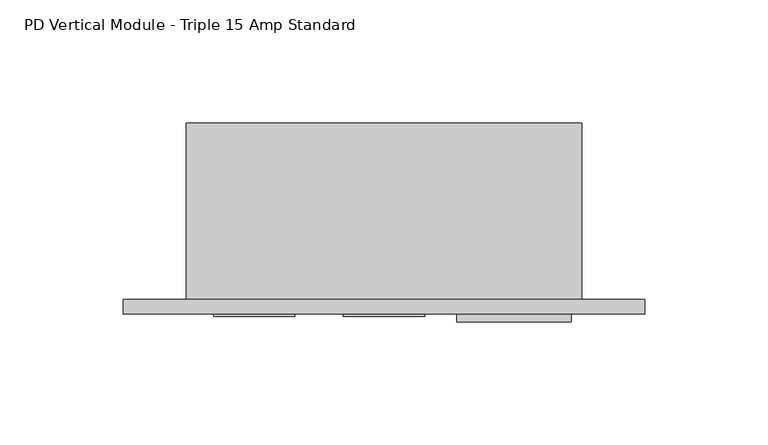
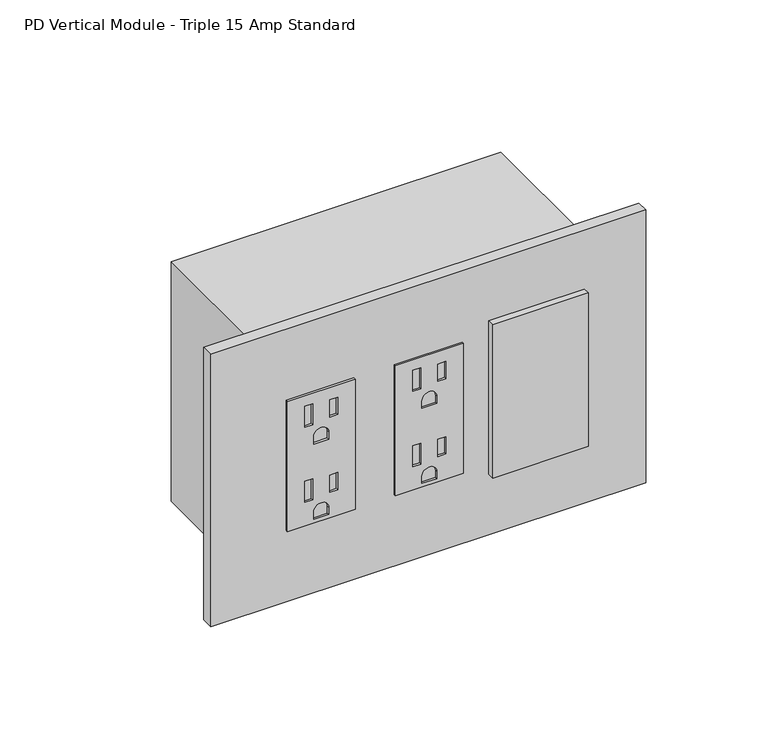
"""IFC4 building model written with IfcOpenShell, lengths in millimetres: proxy geometry, Electrical-Teknion-EPDMT_Vertical_Power_Data_Triple-R2019 : PD Vertical Module - Triple 15 Amp Standard."""

from ifc_helpers import new_model, si_unit, point, frame, frame_2d, origin, place, context, project, spatial, polyline, circle_curve, trimmed, segment, composite_curve, outline, extrude, source, transform, mapped, element, save


def pd_vertical_module_triple_15_amp_standard_c933c7ee(model_context):
    return source(origin(), model_context, "Body", "SweptSolid", [
        extrude(outline(polyline([(414.4772, 96.7613), (414.4772, 63.7667), (347.5228, 63.7667), (347.5228, 96.7613), (414.4772, 96.7613)]), holes=[polyline([(409.0924, 76.1111), (398.272, 76.1111), (398.272, 72.2757), (409.0924, 72.2757), (409.0924, 76.1111)]), polyline([(408.1145, 88.2777), (399.2499, 88.2777), (399.2499, 84.4423), (408.1145, 84.4423), (408.1145, 88.2777)]), composite_curve([segment(polyline([(388.0866, 83.8962), (388.0866, 76.6318), (391.7188, 76.6318)]), True, "CONTINUOUS"), segment(trimmed(circle_curve(frame_2d((391.7188, 80.264)), 3.6322), [point((391.7188, 76.6318))], [point((391.7188, 83.8962))], True, "CARTESIAN"), True, "CONTINUOUS"), segment(polyline([(391.7188, 83.8962), (388.0866, 83.8962)]), True, "CONTINUOUS")], self_intersect=False), polyline([(370.3574, 76.1111), (359.537, 76.1111), (359.537, 72.2757), (370.3574, 72.2757), (370.3574, 76.1111)]), polyline([(369.3795, 88.2777), (360.5149, 88.2777), (360.5149, 84.4423), (369.3795, 84.4423), (369.3795, 88.2777)]), composite_curve([segment(polyline([(349.3516, 83.8962), (349.3516, 76.6318), (352.9838, 76.6318)]), True, "CONTINUOUS"), segment(trimmed(circle_curve(frame_2d((352.9838, 80.264)), 3.6322), [point((352.9838, 76.6318))], [point((352.9838, 83.8962))], True, "CARTESIAN"), True, "CONTINUOUS"), segment(polyline([(352.9838, 83.8962), (349.3516, 83.8962)]), True, "CONTINUOUS")], self_intersect=False)]), frame((0.0, -6.9294746, 0.0), z_axis=(0.0, 1.0, 0.0), x_axis=(0.0, 0.0, 1.0)), (0.0, 0.0, 1.0), 1.0366746),
        extrude(outline(polyline([(414.4772, 44.0944), (414.4772, 11.0998), (347.5228, 11.0998), (347.5228, 44.0944), (414.4772, 44.0944)]), holes=[polyline([(409.0924, 23.4442), (398.272, 23.4442), (398.272, 19.6088), (409.0924, 19.6088), (409.0924, 23.4442)]), polyline([(408.1145, 35.6108), (399.2499, 35.6108), (399.2499, 31.7754), (408.1145, 31.7754), (408.1145, 35.6108)]), composite_curve([segment(polyline([(388.0866, 31.2293), (388.0866, 23.9649), (391.7188, 23.9649)]), True, "CONTINUOUS"), segment(trimmed(circle_curve(frame_2d((391.7188, 27.5971)), 3.6322), [point((391.7188, 23.9649))], [point((391.7188, 31.2293))], True, "CARTESIAN"), True, "CONTINUOUS"), segment(polyline([(391.7188, 31.2293), (388.0866, 31.2293)]), True, "CONTINUOUS")], self_intersect=False), polyline([(370.3574, 23.4442), (359.537, 23.4442), (359.537, 19.6088), (370.3574, 19.6088), (370.3574, 23.4442)]), polyline([(369.3795, 35.6108), (360.5149, 35.6108), (360.5149, 31.7754), (369.3795, 31.7754), (369.3795, 35.6108)]), composite_curve([segment(polyline([(349.3516, 31.2293), (349.3516, 23.9649), (352.9838, 23.9649)]), True, "CONTINUOUS"), segment(trimmed(circle_curve(frame_2d((352.9838, 27.5971)), 3.6322), [point((352.9838, 23.9649))], [point((352.9838, 31.2293))], True, "CARTESIAN"), True, "CONTINUOUS"), segment(polyline([(352.9838, 31.2293), (349.3516, 31.2293)]), True, "CONTINUOUS")], self_intersect=False)]), frame((0.0, -6.9294746, 0.0), z_axis=(0.0, 1.0, 0.0), x_axis=(0.0, 0.0, 1.0)), (0.0, 0.0, 1.0), 1.0366746),
        extrude(outline(polyline([(109.8296, -5.8928), (156.3624, -5.8928), (156.3624, -9.0678), (109.8296, -9.0678), (109.8296, -5.8928)])), frame((0.0, 0.0, 341.7922742), z_axis=(0.0, 0.0, 1.0), x_axis=(1.0, 0.0, 0.0)), (0.0, 0.0, 1.0), 79.0448),
        extrude(outline(polyline([(-25.6794, 0.0), (186.2074, 0.0), (186.2074, -5.8928), (-25.6794, -5.8928), (-25.6794, 0.0)])), frame((0.0, 0.0, 310.8198), z_axis=(0.0, 0.0, 1.0), x_axis=(1.0, 0.0, 0.0)), (0.0, 0.0, 1.0), 140.3604),
        extrude(outline(polyline([(160.528, 0.0), (0.0, 0.0), (0.0, 71.7296), (160.528, 71.7296), (160.528, 0.0)])), frame((0.0, 0.0, 319.2526), z_axis=(0.0, 0.0, 1.0), x_axis=(1.0, 0.0, 0.0)), (0.0, 0.0, 1.0), 123.4948),
    ])


if __name__ == "__main__":
    model = new_model("IFC4")
    model_context = context("Model", 3, world=origin())
    ifc_project = project(units=[si_unit("LENGTHUNIT", "METRE", prefix="MILLI")], contexts=[model_context])
    site = spatial("IfcSite", under=ifc_project)
    building = spatial("IfcBuilding", under=site)
    placement = place(None, origin())
    pd_vertical_module_triple_15_amp_standard_shape = pd_vertical_module_triple_15_amp_standard_c933c7ee(model_context)
    element("IfcBuildingElementProxy", 1, Name="Electrical-Teknion-EPDMT_Vertical_Power_Data_Triple-R2019 : PD Vertical Module - Triple 15 Amp Standard", ObjectType="Electrical-Teknion-EPDMT_Vertical_Power_Data_Triple-R2019 : PD Vertical Module - Triple 15 Amp Standard", at=placement, inside=building, context=model_context, shape_type="MappedRepresentation", body=[
        mapped(pd_vertical_module_triple_15_amp_standard_shape, transform((0.0, 0.0, 0.0), x_axis=(1.0, 0.0, 0.0), y_axis=(0.0, 1.0, 0.0), z_axis=(0.0, 0.0, 1.0))),
    ])
    save(model, "model.ifc")
